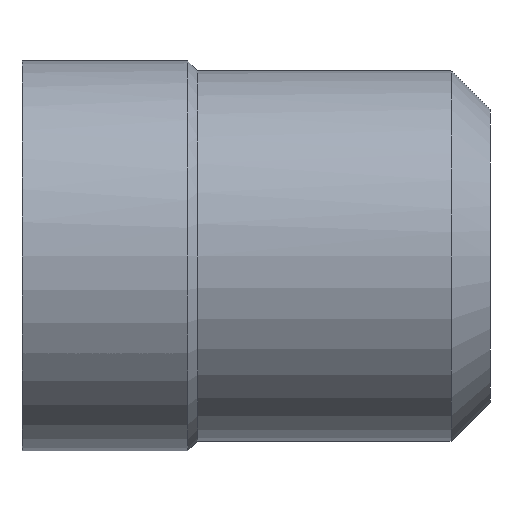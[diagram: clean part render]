
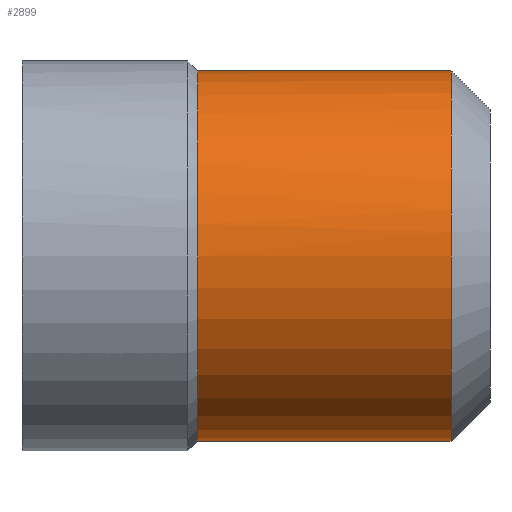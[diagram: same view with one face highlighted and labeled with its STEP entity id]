
A CAD part, front view. The second image highlights one B-rep face of the part: STEP entity #2899.
In plain terms, the highlighted cylindrical face has radius 4.75 mm (diameter 9.5 mm), a partial arc.
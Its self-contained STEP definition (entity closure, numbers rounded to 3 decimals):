
#2576=CARTESIAN_POINT('Vertex',(4.5,0.,4.75)) ;
#2590=CARTESIAN_POINT('Vertex',(4.5,0.,-4.75)) ;
#2612=CARTESIAN_POINT('Axis2P3D Location',(4.5,0.,0.)) ;
#2616=CARTESIAN_POINT('Vertex',(4.5,-4.75,0.)) ;
#2619=CARTESIAN_POINT('Axis2P3D Location',(4.5,0.,0.)) ;
#2833=CARTESIAN_POINT('Line Origine',(4.564,0.,-4.75)) ;
#2837=CARTESIAN_POINT('Vertex',(11.,0.,-4.75)) ;
#2840=CARTESIAN_POINT('Line Origine',(4.564,0.,4.75)) ;
#2844=CARTESIAN_POINT('Vertex',(11.,0.,4.75)) ;
#2871=CARTESIAN_POINT('Axis2P3D Location',(4.564,0.,0.)) ;
#2876=CARTESIAN_POINT('Axis2P3D Location',(11.,0.,0.)) ;
#2880=CARTESIAN_POINT('Vertex',(11.,-4.75,0.)) ;
#2884=CARTESIAN_POINT('Control Point',(11.,0.,4.75)) ;
#2885=CARTESIAN_POINT('Control Point',(11.,-1.492,4.75)) ;
#2886=CARTESIAN_POINT('Control Point',(11.,-2.986,4.166)) ;
#2887=CARTESIAN_POINT('Control Point',(11.,-4.166,2.986)) ;
#2888=CARTESIAN_POINT('Control Point',(11.,-4.75,1.492)) ;
#2889=CARTESIAN_POINT('Control Point',(11.,-4.75,0.)) ;
#2613=DIRECTION('Axis2P3D Direction',(-1.,0.,0.)) ;
#2620=DIRECTION('Axis2P3D Direction',(-1.,0.,0.)) ;
#2834=DIRECTION('Vector Direction',(-1.,0.,0.)) ;
#2841=DIRECTION('Vector Direction',(-1.,0.,0.)) ;
#2872=DIRECTION('Axis2P3D Direction',(-1.,-0.,-0.)) ;
#2873=DIRECTION('Axis2P3D XDirection',(0.,0.,-1.)) ;
#2877=DIRECTION('Axis2P3D Direction',(-1.,-0.,-0.)) ;
#2614=AXIS2_PLACEMENT_3D('Circle Axis2P3D',#2612,#2613,$) ;
#2621=AXIS2_PLACEMENT_3D('Circle Axis2P3D',#2619,#2620,$) ;
#2874=AXIS2_PLACEMENT_3D('Cylinder Axis2P3D',#2871,#2872,#2873) ;
#2878=AXIS2_PLACEMENT_3D('Circle Axis2P3D',#2876,#2877,$) ;
#2892=ORIENTED_EDGE('',*,*,#2846,.T.) ;
#2893=ORIENTED_EDGE('',*,*,#2623,.T.) ;
#2894=ORIENTED_EDGE('',*,*,#2618,.T.) ;
#2895=ORIENTED_EDGE('',*,*,#2839,.T.) ;
#2896=ORIENTED_EDGE('',*,*,#2882,.F.) ;
#2897=ORIENTED_EDGE('',*,*,#2890,.F.) ;
#2835=VECTOR('Line Direction',#2834,1.) ;
#2842=VECTOR('Line Direction',#2841,1.) ;
#2899=ADVANCED_FACE('MSO310',(#2898),#2875,.T.) ;
#2883=B_SPLINE_CURVE_WITH_KNOTS('',5,(#2884,#2885,#2886,#2887,#2888,#2889),.UNSPECIFIED.,.F.,.U.,(6,6),(-3.731,3.731),.UNSPECIFIED.) ;
#2615=CIRCLE('generated circle',#2614,4.75) ;
#2622=CIRCLE('generated circle',#2621,4.75) ;
#2879=CIRCLE('generated circle',#2878,4.75) ;
#2875=CYLINDRICAL_SURFACE('generated cylinder',#2874,4.75) ;
#2618=EDGE_CURVE('',#2617,#2591,#2615,.F.) ;
#2623=EDGE_CURVE('',#2577,#2617,#2622,.F.) ;
#2839=EDGE_CURVE('',#2591,#2838,#2836,.F.) ;
#2846=EDGE_CURVE('',#2845,#2577,#2843,.T.) ;
#2882=EDGE_CURVE('',#2881,#2838,#2879,.F.) ;
#2890=EDGE_CURVE('',#2845,#2881,#2883,.T.) ;
#2891=EDGE_LOOP('',(#2892,#2893,#2894,#2895,#2896,#2897)) ;
#2898=FACE_OUTER_BOUND('',#2891,.T.) ;
#2836=LINE('Line',#2833,#2835) ;
#2843=LINE('Line',#2840,#2842) ;
#2577=VERTEX_POINT('',#2576) ;
#2591=VERTEX_POINT('',#2590) ;
#2617=VERTEX_POINT('',#2616) ;
#2838=VERTEX_POINT('',#2837) ;
#2845=VERTEX_POINT('',#2844) ;
#2881=VERTEX_POINT('',#2880) ;
